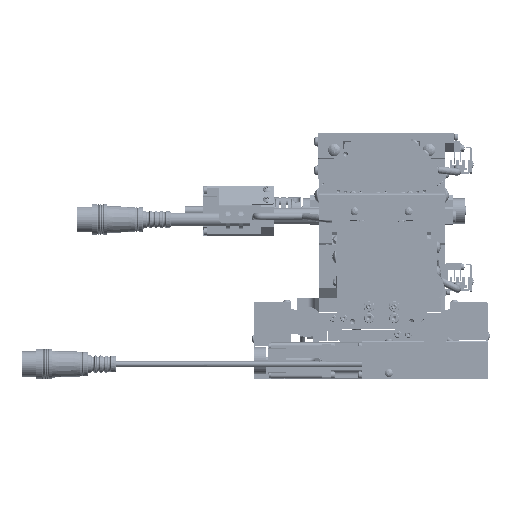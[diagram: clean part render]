
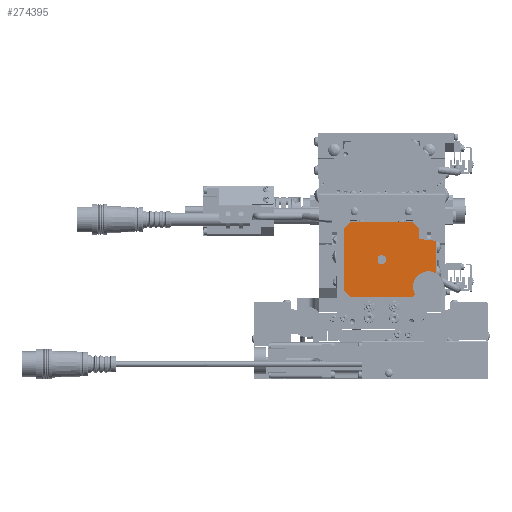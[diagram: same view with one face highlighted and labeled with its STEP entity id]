
A CAD part, front view. The second image highlights one B-rep face of the part: STEP entity #274395.
In plain terms, the highlighted planar face has unit normal (0, -1, 0) as drawn and (1, 0, 0) by its records, which use the part's own axes.
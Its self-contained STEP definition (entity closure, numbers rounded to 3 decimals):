
#615 = CARTESIAN_POINT ( 'NONE',  ( 180.046, 279.539, 142.862 ) ) ;
#759 = EDGE_LOOP ( 'NONE', ( #294070, #108737, #93583, #368997, #210862, #45022, #153944, #354352, #352355, #114772, #187561, #278472, #280516, #229049 ) ) ;
#1775 = EDGE_LOOP ( 'NONE', ( #155167, #157733 ) ) ;
#2593 = CARTESIAN_POINT ( 'NONE',  ( 180.046, 270.978, 164.811 ) ) ;
#2895 = CARTESIAN_POINT ( 'NONE',  ( 180.046, 249.978, 153.311 ) ) ;
#3657 = CIRCLE ( 'NONE', #301579, 27. ) ;
#4009 = CIRCLE ( 'NONE', #290250, 0.5 ) ;
#7209 = LINE ( 'NONE', #113456, #248479 ) ;
#16280 = LINE ( 'NONE', #95832, #107481 ) ;
#41592 = AXIS2_PLACEMENT_3D ( 'NONE', #201103, #143824, #255848 ) ;
#45022 = ORIENTED_EDGE ( 'NONE', *, *, #180714, .F. ) ;
#45712 = VECTOR ( 'NONE', #318160, 1000. ) ;
#46221 = EDGE_CURVE ( 'NONE', #81119, #167119, #113929, .T. ) ;
#49155 = CIRCLE ( 'NONE', #93064, 27. ) ;
#49443 = VERTEX_POINT ( 'NONE', #615 ) ;
#49572 = AXIS2_PLACEMENT_3D ( 'NONE', #203211, #120421, #87460 ) ;
#53082 = DIRECTION ( 'NONE',  ( -1., 0., 0. ) ) ;
#53533 = CARTESIAN_POINT ( 'NONE',  ( 180.046, 279.978, 143.358 ) ) ;
#54145 = DIRECTION ( 'NONE',  ( 0., 1., 0. ) ) ;
#55892 = CARTESIAN_POINT ( 'NONE',  ( 180.046, 228.978, 136.34 ) ) ;
#57317 = EDGE_CURVE ( 'NONE', #68850, #266495, #243896, .T. ) ;
#68467 = CARTESIAN_POINT ( 'NONE',  ( 180.046, 270.978, 170.281 ) ) ;
#68850 = VERTEX_POINT ( 'NONE', #281652 ) ;
#69796 = VERTEX_POINT ( 'NONE', #68467 ) ;
#79182 = CARTESIAN_POINT ( 'NONE',  ( 180.046, 279.539, 142.862 ) ) ;
#80082 = EDGE_CURVE ( 'NONE', #366312, #49443, #104078, .T. ) ;
#81119 = VERTEX_POINT ( 'NONE', #158901 ) ;
#84522 = VERTEX_POINT ( 'NONE', #55892 ) ;
#86101 = DIRECTION ( 'NONE',  ( 0., -0.629, -0.778 ) ) ;
#87460 = DIRECTION ( 'NONE',  ( 0., 0., -1. ) ) ;
#93064 = AXIS2_PLACEMENT_3D ( 'NONE', #222366, #53082, #110287 ) ;
#93168 = LINE ( 'NONE', #79182, #242156 ) ;
#93583 = ORIENTED_EDGE ( 'NONE', *, *, #195049, .F. ) ;
#95832 = CARTESIAN_POINT ( 'NONE',  ( 180.046, 279.978, 163.263 ) ) ;
#101222 = EDGE_CURVE ( 'NONE', #273431, #305294, #4009, .T. ) ;
#103795 = LINE ( 'NONE', #286221, #167295 ) ;
#104078 = CIRCLE ( 'NONE', #108669, 0.5 ) ;
#107481 = VECTOR ( 'NONE', #123824, 1000. ) ;
#108669 = AXIS2_PLACEMENT_3D ( 'NONE', #260182, #228431, #54145 ) ;
#108737 = ORIENTED_EDGE ( 'NONE', *, *, #153588, .F. ) ;
#110287 = DIRECTION ( 'NONE',  ( 0., 0.778, -0.629 ) ) ;
#110296 = LINE ( 'NONE', #186660, #169459 ) ;
#113456 = CARTESIAN_POINT ( 'NONE',  ( 180.046, 247.978, 154.811 ) ) ;
#113929 = LINE ( 'NONE', #118324, #45712 ) ;
#114772 = ORIENTED_EDGE ( 'NONE', *, *, #101222, .F. ) ;
#118324 = CARTESIAN_POINT ( 'NONE',  ( 180.046, 266.949, 132.311 ) ) ;
#119122 = CARTESIAN_POINT ( 'NONE',  ( 180.046, 266.949, 174.311 ) ) ;
#120421 = DIRECTION ( 'NONE',  ( -1., 0., 0. ) ) ;
#123168 = DIRECTION ( 'NONE',  ( 0., 0., 1. ) ) ;
#123824 = DIRECTION ( 'NONE',  ( 0., 0., -1. ) ) ;
#128106 = LINE ( 'NONE', #241316, #187237 ) ;
#129881 = DIRECTION ( 'NONE',  ( -1., 0., 0. ) ) ;
#134000 = LINE ( 'NONE', #2593, #370894 ) ;
#140782 = DIRECTION ( 'NONE',  ( -1., 0., 0. ) ) ;
#143824 = DIRECTION ( 'NONE',  ( -1., 0., 0. ) ) ;
#153588 = EDGE_CURVE ( 'NONE', #84522, #309865, #110296, .T. ) ;
#153944 = ORIENTED_EDGE ( 'NONE', *, *, #233782, .F. ) ;
#155167 = ORIENTED_EDGE ( 'NONE', *, *, #57317, .T. ) ;
#157733 = ORIENTED_EDGE ( 'NONE', *, *, #211618, .F. ) ;
#158901 = CARTESIAN_POINT ( 'NONE',  ( 180.046, 266.949, 132.311 ) ) ;
#166844 = CARTESIAN_POINT ( 'NONE',  ( 180.046, 247.978, 151.811 ) ) ;
#167119 = VERTEX_POINT ( 'NONE', #299289 ) ;
#167295 = VECTOR ( 'NONE', #172958, 1000. ) ;
#167616 = VERTEX_POINT ( 'NONE', #246912 ) ;
#169459 = VECTOR ( 'NONE', #123168, 1000. ) ;
#170096 = DIRECTION ( 'NONE',  ( -1., 0., 0. ) ) ;
#172958 = DIRECTION ( 'NONE',  ( 0., 0., -1. ) ) ;
#177438 = FACE_BOUND ( 'NONE', #1775, .T. ) ;
#177758 = CIRCLE ( 'NONE', #41592, 27. ) ;
#180714 = EDGE_CURVE ( 'NONE', #245908, #350259, #298300, .T. ) ;
#183187 = AXIS2_PLACEMENT_3D ( 'NONE', #334691, #129881, #274935 ) ;
#186660 = CARTESIAN_POINT ( 'NONE',  ( 180.046, 228.978, 136.34 ) ) ;
#187237 = VECTOR ( 'NONE', #273054, 1000. ) ;
#187561 = ORIENTED_EDGE ( 'NONE', *, *, #312547, .F. ) ;
#191070 = EDGE_CURVE ( 'NONE', #350259, #81119, #49155, .T. ) ;
#195049 = EDGE_CURVE ( 'NONE', #167119, #84522, #3657, .T. ) ;
#196217 = CARTESIAN_POINT ( 'NONE',  ( 180.046, 279.978, 163.263 ) ) ;
#201103 = CARTESIAN_POINT ( 'NONE',  ( 180.046, 249.978, 153.311 ) ) ;
#203211 = CARTESIAN_POINT ( 'NONE',  ( 180.046, 304.029, 202.862 ) ) ;
#205148 = DIRECTION ( 'NONE',  ( 0., -0.778, 0.629 ) ) ;
#210862 = ORIENTED_EDGE ( 'NONE', *, *, #191070, .F. ) ;
#211618 = EDGE_CURVE ( 'NONE', #68850, #266495, #7209, .T. ) ;
#218296 = FACE_OUTER_BOUND ( 'NONE', #759, .T. ) ;
#222366 = CARTESIAN_POINT ( 'NONE',  ( 180.046, 249.978, 153.311 ) ) ;
#228431 = DIRECTION ( 'NONE',  ( -1., 0., 0. ) ) ;
#229049 = ORIENTED_EDGE ( 'NONE', *, *, #252725, .F. ) ;
#232360 = CARTESIAN_POINT ( 'NONE',  ( 180.046, 249.978, 153.311 ) ) ;
#233782 = EDGE_CURVE ( 'NONE', #49443, #245908, #93168, .T. ) ;
#238268 = VERTEX_POINT ( 'NONE', #119122 ) ;
#241316 = CARTESIAN_POINT ( 'NONE',  ( 180.046, 233.008, 174.311 ) ) ;
#242156 = VECTOR ( 'NONE', #282693, 1000. ) ;
#243896 = CIRCLE ( 'NONE', #183187, 2.5 ) ;
#245908 = VERTEX_POINT ( 'NONE', #321062 ) ;
#246912 = CARTESIAN_POINT ( 'NONE',  ( 180.046, 233.008, 174.311 ) ) ;
#248479 = VECTOR ( 'NONE', #370464, 1000. ) ;
#252725 = EDGE_CURVE ( 'NONE', #167616, #238268, #128106, .T. ) ;
#255848 = DIRECTION ( 'NONE',  ( 0., 0.629, 0.778 ) ) ;
#260182 = CARTESIAN_POINT ( 'NONE',  ( 180.046, 279.478, 143.358 ) ) ;
#266495 = VERTEX_POINT ( 'NONE', #166844 ) ;
#273054 = DIRECTION ( 'NONE',  ( 0., 1., 0. ) ) ;
#273431 = VERTEX_POINT ( 'NONE', #273852 ) ;
#273852 = CARTESIAN_POINT ( 'NONE',  ( 180.046, 279.539, 163.76 ) ) ;
#274395 = ADVANCED_FACE ( 'NONE', ( #218296, #177438 ), #294749, .F. ) ;
#274935 = DIRECTION ( 'NONE',  ( 0., -0.8, 0.6 ) ) ;
#278472 = ORIENTED_EDGE ( 'NONE', *, *, #363310, .F. ) ;
#280516 = ORIENTED_EDGE ( 'NONE', *, *, #287856, .F. ) ;
#281652 = CARTESIAN_POINT ( 'NONE',  ( 180.046, 247.978, 154.811 ) ) ;
#282693 = DIRECTION ( 'NONE',  ( 0., -0.993, -0.122 ) ) ;
#286221 = CARTESIAN_POINT ( 'NONE',  ( 180.046, 270.978, 170.281 ) ) ;
#287856 = EDGE_CURVE ( 'NONE', #238268, #69796, #177758, .T. ) ;
#290250 = AXIS2_PLACEMENT_3D ( 'NONE', #344388, #170096, #373578 ) ;
#292136 = VERTEX_POINT ( 'NONE', #323999 ) ;
#294070 = ORIENTED_EDGE ( 'NONE', *, *, #306671, .F. ) ;
#294749 = PLANE ( 'NONE',  #49572 ) ;
#298300 = LINE ( 'NONE', #326058, #311878 ) ;
#299289 = CARTESIAN_POINT ( 'NONE',  ( 180.046, 233.008, 132.311 ) ) ;
#301579 = AXIS2_PLACEMENT_3D ( 'NONE', #232360, #140782, #86101 ) ;
#305294 = VERTEX_POINT ( 'NONE', #196217 ) ;
#306671 = EDGE_CURVE ( 'NONE', #309865, #167616, #340758, .T. ) ;
#309865 = VERTEX_POINT ( 'NONE', #318018 ) ;
#311878 = VECTOR ( 'NONE', #328553, 1000. ) ;
#312547 = EDGE_CURVE ( 'NONE', #292136, #273431, #134000, .T. ) ;
#318018 = CARTESIAN_POINT ( 'NONE',  ( 180.046, 228.978, 170.281 ) ) ;
#318160 = DIRECTION ( 'NONE',  ( 0., -1., 0. ) ) ;
#321062 = CARTESIAN_POINT ( 'NONE',  ( 180.046, 270.978, 141.811 ) ) ;
#323999 = CARTESIAN_POINT ( 'NONE',  ( 180.046, 270.978, 164.811 ) ) ;
#326058 = CARTESIAN_POINT ( 'NONE',  ( 180.046, 270.978, 141.811 ) ) ;
#328553 = DIRECTION ( 'NONE',  ( 0., 0., -1. ) ) ;
#334674 = EDGE_CURVE ( 'NONE', #305294, #366312, #16280, .T. ) ;
#334691 = CARTESIAN_POINT ( 'NONE',  ( 180.046, 249.978, 153.311 ) ) ;
#340758 = CIRCLE ( 'NONE', #351900, 27. ) ;
#344388 = CARTESIAN_POINT ( 'NONE',  ( 180.046, 279.478, 163.263 ) ) ;
#348638 = DIRECTION ( 'NONE',  ( 0., 0.993, -0.122 ) ) ;
#350259 = VERTEX_POINT ( 'NONE', #354904 ) ;
#351421 = DIRECTION ( 'NONE',  ( -1., 0., 0. ) ) ;
#351900 = AXIS2_PLACEMENT_3D ( 'NONE', #2895, #351421, #205148 ) ;
#352355 = ORIENTED_EDGE ( 'NONE', *, *, #334674, .F. ) ;
#354352 = ORIENTED_EDGE ( 'NONE', *, *, #80082, .F. ) ;
#354904 = CARTESIAN_POINT ( 'NONE',  ( 180.046, 270.978, 136.34 ) ) ;
#363310 = EDGE_CURVE ( 'NONE', #69796, #292136, #103795, .T. ) ;
#366312 = VERTEX_POINT ( 'NONE', #53533 ) ;
#368997 = ORIENTED_EDGE ( 'NONE', *, *, #46221, .F. ) ;
#370464 = DIRECTION ( 'NONE',  ( 0., 0., -1. ) ) ;
#370894 = VECTOR ( 'NONE', #348638, 1000. ) ;
#373578 = DIRECTION ( 'NONE',  ( 0., 0.122, 0.993 ) ) ;
